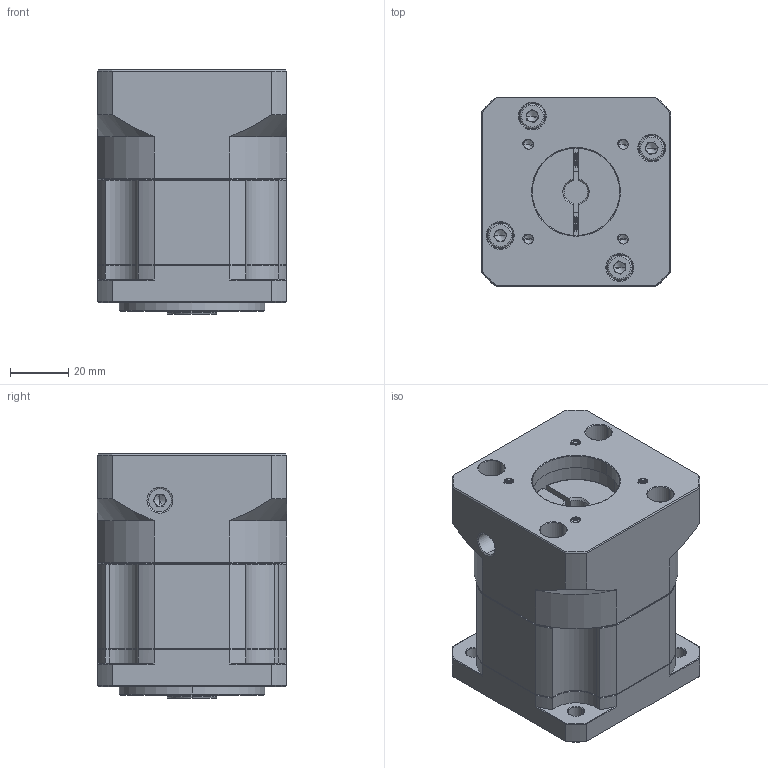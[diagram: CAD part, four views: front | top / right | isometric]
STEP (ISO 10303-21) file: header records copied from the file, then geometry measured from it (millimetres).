
FILE_DESCRIPTION (( 'STEP AP214' ), '1' );
FILE_NAME ('ZB060-K10-L1-P2-8-30-46-M4.step', '2023-08-16T07:10:26', ( '' ), ( '' ), 'SwSTEP 2.0', 'SolidWorks 2016', '' );
FILE_SCHEMA (( 'AUTOMOTIVE_DESIGN' ));
Length unit declared in the file: millimetre
Products named in the file (1): ZB060-K10-L1-P2-8-30-46-M4
Bounding box: 65 x 65 x 84 mm (x, y, z)
Volume: 269390.6 mm3; surface area: 53959.8 mm2
Topology: 6 solids, 6 shells, 2101 faces, 5654 edges, 3644 vertices
Faces by surface type: plane 1056, bspline 390, cylinder 342, cone 279, torus 34
Entity records: 108962 total; most frequent: CARTESIAN_POINT 35964, ORIENTED_EDGE 11252, DIRECTION 8948, EDGE_CURVE 5626, VERTEX_POINT 3644, LINE 3584, VECTOR 3584, AXIS2_PLACEMENT_3D 2682
